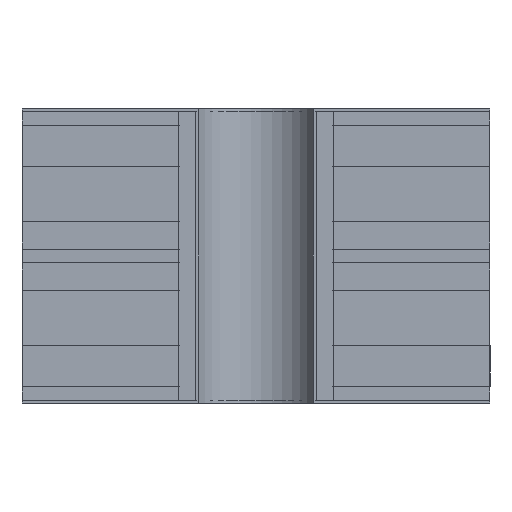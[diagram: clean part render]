
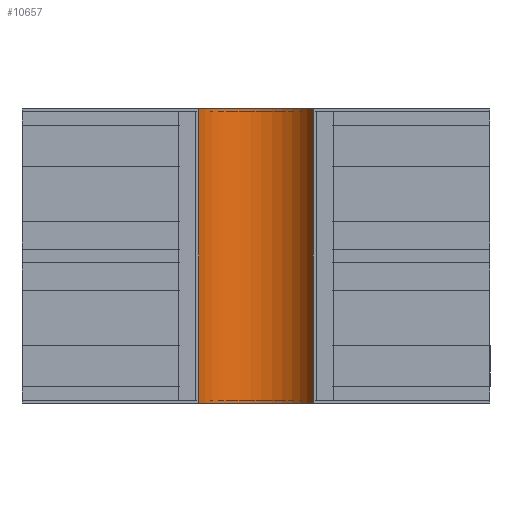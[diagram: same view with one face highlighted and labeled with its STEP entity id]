
A CAD part, left-side view. The second image highlights one B-rep face of the part: STEP entity #10657.
In plain terms, the highlighted cylindrical face has radius 0.23 mm (diameter 0.46 mm), a partial arc.
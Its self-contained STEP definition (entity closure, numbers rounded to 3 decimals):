
#624 = CARTESIAN_POINT ( 'NONE',  ( 8.095, -22.626, 0.4 ) ) ;
#926 = CARTESIAN_POINT ( 'NONE',  ( 8.195, -22.419, 0.41 ) ) ;
#1042 = ORIENTED_EDGE ( 'NONE', *, *, #1134, .F. ) ;
#1134 = EDGE_CURVE ( 'NONE', #9725, #11519, #5226, .T. ) ;
#1538 = DIRECTION ( 'NONE',  ( -1., 0., 0. ) ) ;
#1628 = FACE_OUTER_BOUND ( 'NONE', #8121, .T. ) ;
#2798 = CARTESIAN_POINT ( 'NONE',  ( 8.195, -22.833, 0.41 ) ) ;
#2869 = ORIENTED_EDGE ( 'NONE', *, *, #4105, .T. ) ;
#3608 = CARTESIAN_POINT ( 'NONE',  ( 8.095, -22.626, 0.41 ) ) ;
#3643 = LINE ( 'NONE', #12363, #7502 ) ;
#4105 = EDGE_CURVE ( 'NONE', #9725, #11057, #10557, .T. ) ;
#4728 = DIRECTION ( 'NONE',  ( 0., 0., 1. ) ) ;
#5226 = CIRCLE ( 'NONE', #9904, 0.23 ) ;
#5575 = VERTEX_POINT ( 'NONE', #926 ) ;
#5619 = CARTESIAN_POINT ( 'NONE',  ( 8.095, -22.626, -0.66 ) ) ;
#5659 = CARTESIAN_POINT ( 'NONE',  ( 8.195, -22.833, -0.66 ) ) ;
#6780 = EDGE_CURVE ( 'NONE', #5575, #11057, #9503, .T. ) ;
#7104 = CARTESIAN_POINT ( 'NONE',  ( 8.195, -22.833, -0.65 ) ) ;
#7141 = DIRECTION ( 'NONE',  ( -1., 0., 0. ) ) ;
#7502 = VECTOR ( 'NONE', #4728, 1000. ) ;
#7879 = AXIS2_PLACEMENT_3D ( 'NONE', #3608, #7919, #1538 ) ;
#7919 = DIRECTION ( 'NONE',  ( 0., 0., -1. ) ) ;
#8121 = EDGE_LOOP ( 'NONE', ( #9920, #11174, #1042, #2869 ) ) ;
#8172 = DIRECTION ( 'NONE',  ( 0., 0., 1. ) ) ;
#8274 = CARTESIAN_POINT ( 'NONE',  ( 8.195, -22.419, -0.66 ) ) ;
#9503 = CIRCLE ( 'NONE', #7879, 0.23 ) ;
#9702 = CYLINDRICAL_SURFACE ( 'NONE', #10603, 0.23 ) ;
#9725 = VERTEX_POINT ( 'NONE', #5659 ) ;
#9904 = AXIS2_PLACEMENT_3D ( 'NONE', #5619, #12174, #13185 ) ;
#9920 = ORIENTED_EDGE ( 'NONE', *, *, #6780, .F. ) ;
#10067 = VECTOR ( 'NONE', #8172, 1000. ) ;
#10557 = LINE ( 'NONE', #7104, #10067 ) ;
#10603 = AXIS2_PLACEMENT_3D ( 'NONE', #624, #13579, #7141 ) ;
#10657 = ADVANCED_FACE ( 'NONE', ( #1628 ), #9702, .F. ) ;
#11057 = VERTEX_POINT ( 'NONE', #2798 ) ;
#11174 = ORIENTED_EDGE ( 'NONE', *, *, #12737, .F. ) ;
#11519 = VERTEX_POINT ( 'NONE', #8274 ) ;
#12174 = DIRECTION ( 'NONE',  ( 0., 0., 1. ) ) ;
#12363 = CARTESIAN_POINT ( 'NONE',  ( 8.195, -22.419, 0.4 ) ) ;
#12737 = EDGE_CURVE ( 'NONE', #11519, #5575, #3643, .T. ) ;
#13185 = DIRECTION ( 'NONE',  ( -1., 0., 0. ) ) ;
#13579 = DIRECTION ( 'NONE',  ( 0., 0., -1. ) ) ;
